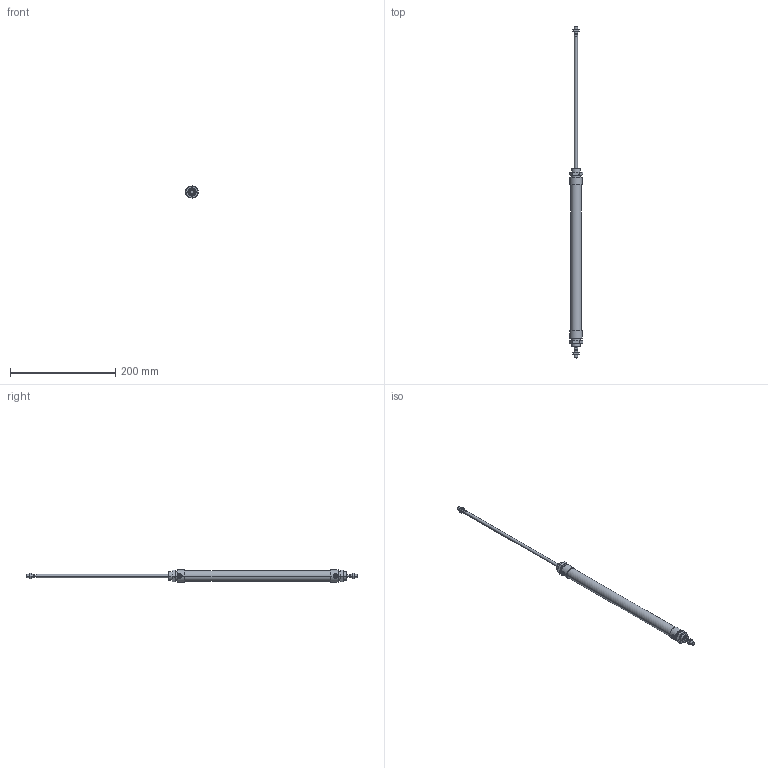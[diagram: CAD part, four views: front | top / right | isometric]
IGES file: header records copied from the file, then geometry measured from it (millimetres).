
Global section: file name: No Iges File Name specified; native system: AutoDesk Inventor R10; preprocessor: AutoDesk Inventor Iges Exporter R10; author: No Author specified; organization: No Organization specified; date: 20060105.143419; units: millimetre
Bounding box: 25.4 x 632 x 23 mm (x, y, z)
Volume: 117453.2 mm3; surface area: 43645.2 mm2
Topology: 6 solids, 6 shells, 184 faces, 394 edges, 230 vertices
Faces by surface type: cone 68, plane 58, cylinder 24, bspline 20, revolution 14
